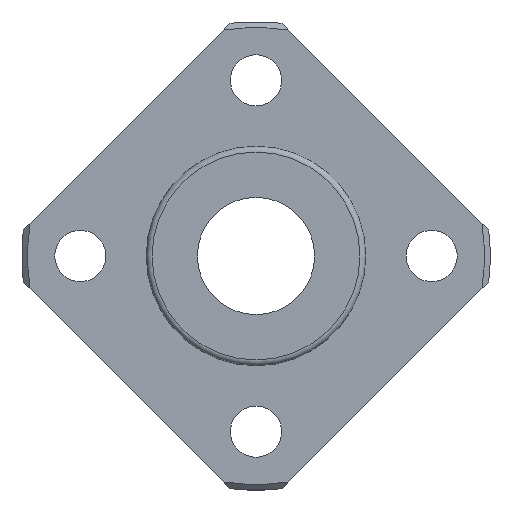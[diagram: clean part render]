
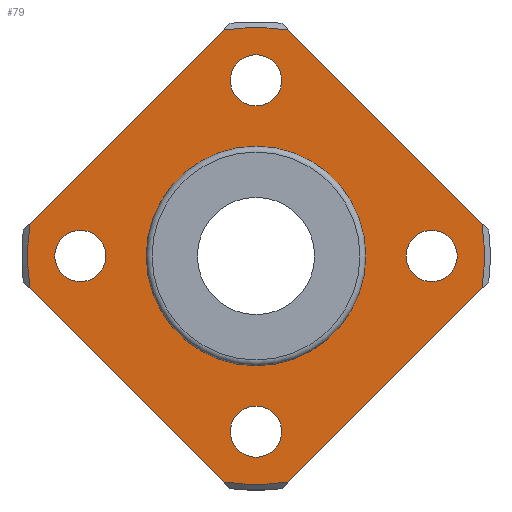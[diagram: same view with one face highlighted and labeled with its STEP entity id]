
A CAD part, left-side view. The second image highlights one B-rep face of the part: STEP entity #79.
In plain terms, the highlighted planar face has unit normal (-1, 0, 0).
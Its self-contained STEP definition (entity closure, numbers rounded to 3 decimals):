
#79=ADVANCED_FACE('',(#125,#126,#127,#128,#129,#130),#131,.T.);
#125=FACE_BOUND('',#240,.T.);
#126=FACE_BOUND('',#241,.T.);
#127=FACE_BOUND('',#242,.T.);
#128=FACE_BOUND('',#243,.T.);
#129=FACE_BOUND('',#244,.T.);
#130=FACE_OUTER_BOUND('',#245,.T.);
#131=PLANE('',#246);
#240=EDGE_LOOP('',(#387));
#241=EDGE_LOOP('',(#388));
#242=EDGE_LOOP('',(#389));
#243=EDGE_LOOP('',(#390));
#244=EDGE_LOOP('',(#391));
#245=EDGE_LOOP('',(#392,#393,#394,#395,#396,#397,#398,#399));
#246=AXIS2_PLACEMENT_3D('',#400,#401,#402);
#387=ORIENTED_EDGE('',*,*,#648,.F.);
#388=ORIENTED_EDGE('',*,*,#649,.T.);
#389=ORIENTED_EDGE('',*,*,#650,.T.);
#390=ORIENTED_EDGE('',*,*,#651,.T.);
#391=ORIENTED_EDGE('',*,*,#652,.T.);
#392=ORIENTED_EDGE('',*,*,#632,.T.);
#393=ORIENTED_EDGE('',*,*,#634,.T.);
#394=ORIENTED_EDGE('',*,*,#653,.T.);
#395=ORIENTED_EDGE('',*,*,#654,.T.);
#396=ORIENTED_EDGE('',*,*,#655,.T.);
#397=ORIENTED_EDGE('',*,*,#622,.T.);
#398=ORIENTED_EDGE('',*,*,#656,.T.);
#399=ORIENTED_EDGE('',*,*,#641,.T.);
#400=CARTESIAN_POINT('',(-5.0,0.,11.475));
#401=DIRECTION('',(-1.0,0.,0.));
#402=DIRECTION('',(0.,-1.0,0.));
#622=EDGE_CURVE('',#698,#699,#700,.T.);
#632=EDGE_CURVE('',#719,#717,#720,.T.);
#634=EDGE_CURVE('',#717,#722,#723,.T.);
#641=EDGE_CURVE('',#735,#719,#736,.T.);
#648=EDGE_CURVE('',#748,#748,#749,.T.);
#649=EDGE_CURVE('',#750,#750,#751,.T.);
#650=EDGE_CURVE('',#752,#752,#753,.T.);
#651=EDGE_CURVE('',#754,#754,#755,.T.);
#652=EDGE_CURVE('',#756,#756,#757,.T.);
#653=EDGE_CURVE('',#722,#758,#759,.T.);
#654=EDGE_CURVE('',#758,#760,#761,.T.);
#655=EDGE_CURVE('',#760,#698,#762,.T.);
#656=EDGE_CURVE('',#699,#735,#763,.T.);
#698=VERTEX_POINT('',#834);
#699=VERTEX_POINT('',#835);
#700=LINE('',#836,#837);
#717=VERTEX_POINT('',#869);
#719=VERTEX_POINT('',#874);
#720=CIRCLE('',#875,15.6);
#722=VERTEX_POINT('',#880);
#723=LINE('',#881,#882);
#735=VERTEX_POINT('',#906);
#736=LINE('',#907,#908);
#748=VERTEX_POINT('',#932);
#749=CIRCLE('',#933,7.35);
#750=VERTEX_POINT('',#934);
#751=CIRCLE('',#935,1.75);
#752=VERTEX_POINT('',#936);
#753=CIRCLE('',#937,1.75);
#754=VERTEX_POINT('',#938);
#755=CIRCLE('',#939,1.75);
#756=VERTEX_POINT('',#940);
#757=CIRCLE('',#941,1.75);
#758=VERTEX_POINT('',#942);
#759=CIRCLE('',#943,15.6);
#760=VERTEX_POINT('',#944);
#761=LINE('',#945,#946);
#762=CIRCLE('',#947,15.6);
#763=CIRCLE('',#948,15.6);
#834=CARTESIAN_POINT('',(-5.0,-2.239,-15.438));
#835=CARTESIAN_POINT('',(-5.0,-15.438,-2.239));
#836=CARTESIAN_POINT('',(-5.0,-14.576,-3.101));
#837=VECTOR('',#1034,1.0);
#869=CARTESIAN_POINT('',(-5.0,2.239,15.438));
#874=CARTESIAN_POINT('',(-5.0,-2.239,15.438));
#875=AXIS2_PLACEMENT_3D('',#1041,#1042,#1043);
#880=CARTESIAN_POINT('',(-5.0,15.438,2.239));
#881=CARTESIAN_POINT('',(-5.0,3.101,14.576));
#882=VECTOR('',#1044,1.0);
#906=CARTESIAN_POINT('',(-5.0,-15.438,2.239));
#907=CARTESIAN_POINT('',(-5.0,-3.101,14.576));
#908=VECTOR('',#1048,1.0);
#932=CARTESIAN_POINT('',(-5.0,0.,7.35));
#933=AXIS2_PLACEMENT_3D('',#1052,#1053,#1054);
#934=CARTESIAN_POINT('',(-5.0,-1.75,12.0));
#935=AXIS2_PLACEMENT_3D('',#1055,#1056,#1057);
#936=CARTESIAN_POINT('',(-5.0,-1.75,-12.0));
#937=AXIS2_PLACEMENT_3D('',#1058,#1059,#1060);
#938=CARTESIAN_POINT('',(-5.0,10.25,0.));
#939=AXIS2_PLACEMENT_3D('',#1061,#1062,#1063);
#940=CARTESIAN_POINT('',(-5.0,-13.75,0.));
#941=AXIS2_PLACEMENT_3D('',#1064,#1065,#1066);
#942=CARTESIAN_POINT('',(-5.0,15.438,-2.239));
#943=AXIS2_PLACEMENT_3D('',#1067,#1068,#1069);
#944=CARTESIAN_POINT('',(-5.0,2.239,-15.438));
#945=CARTESIAN_POINT('',(-5.0,14.576,-3.101));
#946=VECTOR('',#1070,1.0);
#947=AXIS2_PLACEMENT_3D('',#1071,#1072,#1073);
#948=AXIS2_PLACEMENT_3D('',#1074,#1075,#1076);
#1034=DIRECTION('',(0.,-0.707,0.707));
#1041=CARTESIAN_POINT('',(-5.0,0.,0.));
#1042=DIRECTION('',(-1.0,0.,0.));
#1043=DIRECTION('',(0.,0.0,1.0));
#1044=DIRECTION('',(0.,0.707,-0.707));
#1048=DIRECTION('',(0.,0.707,0.707));
#1052=CARTESIAN_POINT('',(-5.0,0.,0.));
#1053=DIRECTION('',(-1.0,0.,0.));
#1054=DIRECTION('',(0.,0.0,1.0));
#1055=CARTESIAN_POINT('',(-5.0,0.,12.0));
#1056=DIRECTION('',(1.0,0.,0.));
#1057=DIRECTION('',(0.,1.0,0.));
#1058=CARTESIAN_POINT('',(-5.0,0.,-12.0));
#1059=DIRECTION('',(1.0,0.,0.));
#1060=DIRECTION('',(0.,1.0,0.));
#1061=CARTESIAN_POINT('',(-5.0,12.0,0.));
#1062=DIRECTION('',(1.0,0.,0.));
#1063=DIRECTION('',(0.,1.0,0.));
#1064=CARTESIAN_POINT('',(-5.0,-12.0,0.));
#1065=DIRECTION('',(1.0,0.,0.));
#1066=DIRECTION('',(0.,1.0,0.));
#1067=CARTESIAN_POINT('',(-5.0,0.,0.));
#1068=DIRECTION('',(-1.0,0.,0.));
#1069=DIRECTION('',(0.,0.0,1.0));
#1070=DIRECTION('',(0.,-0.707,-0.707));
#1071=CARTESIAN_POINT('',(-5.0,0.,0.));
#1072=DIRECTION('',(-1.0,0.,0.));
#1073=DIRECTION('',(0.,0.0,1.0));
#1074=CARTESIAN_POINT('',(-5.0,0.,0.));
#1075=DIRECTION('',(-1.0,0.,0.));
#1076=DIRECTION('',(0.,0.0,1.0));
